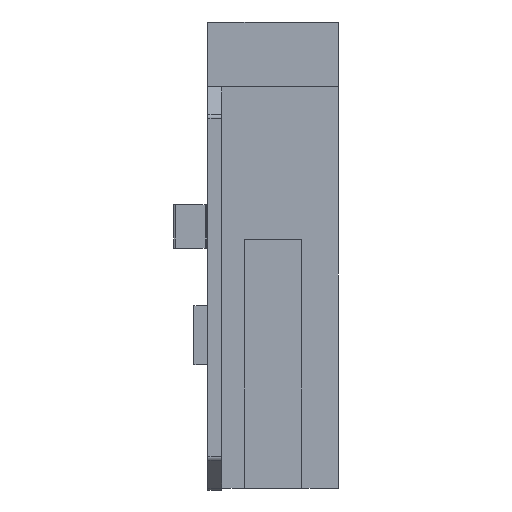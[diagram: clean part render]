
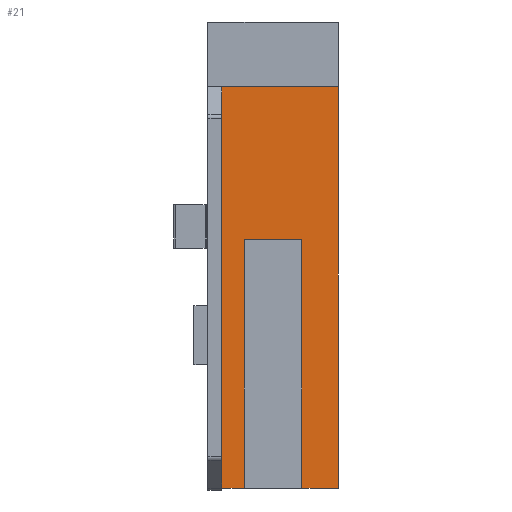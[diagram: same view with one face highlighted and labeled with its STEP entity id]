
A CAD part, front view. The second image highlights one B-rep face of the part: STEP entity #21.
In plain terms, the highlighted planar face has unit normal (0, -1, 0).
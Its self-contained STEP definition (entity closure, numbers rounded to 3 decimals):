
#21 = ADVANCED_FACE ( 'NONE', ( #1389 ), #2062, .T. ) ;
#36 = EDGE_CURVE ( 'NONE', #1453, #1895, #1731, .T. ) ;
#43 = DIRECTION ( 'NONE',  ( 0., 0., -1. ) ) ;
#53 = ORIENTED_EDGE ( 'NONE', *, *, #36, .T. ) ;
#58 = CARTESIAN_POINT ( 'NONE',  ( -5.55, -32.25, 43.3 ) ) ;
#90 = CARTESIAN_POINT ( 'NONE',  ( -5.55, -32.25, 0. ) ) ;
#106 = CARTESIAN_POINT ( 'NONE',  ( -5.55, -32.25, 0. ) ) ;
#133 = CARTESIAN_POINT ( 'NONE',  ( 3.1, -32.25, 0. ) ) ;
#210 = VECTOR ( 'NONE', #1680, 1000. ) ;
#245 = CARTESIAN_POINT ( 'NONE',  ( 7.05, -32.25, 0. ) ) ;
#292 = ORIENTED_EDGE ( 'NONE', *, *, #1812, .F. ) ;
#302 = LINE ( 'NONE', #2355, #739 ) ;
#320 = ORIENTED_EDGE ( 'NONE', *, *, #1254, .T. ) ;
#332 = VECTOR ( 'NONE', #1355, 1000. ) ;
#400 = VECTOR ( 'NONE', #682, 1000. ) ;
#401 = ORIENTED_EDGE ( 'NONE', *, *, #1046, .T. ) ;
#404 = EDGE_LOOP ( 'NONE', ( #53, #2492, #839, #527, #320, #292, #2215, #401 ) ) ;
#527 = ORIENTED_EDGE ( 'NONE', *, *, #1981, .T. ) ;
#576 = VERTEX_POINT ( 'NONE', #2801 ) ;
#651 = VECTOR ( 'NONE', #1738, 1000. ) ;
#682 = DIRECTION ( 'NONE',  ( 1., 0., 0. ) ) ;
#739 = VECTOR ( 'NONE', #1017, 1000. ) ;
#806 = VERTEX_POINT ( 'NONE', #1747 ) ;
#839 = ORIENTED_EDGE ( 'NONE', *, *, #933, .T. ) ;
#933 = EDGE_CURVE ( 'NONE', #806, #576, #1305, .T. ) ;
#942 = CARTESIAN_POINT ( 'NONE',  ( -5.55, -32.25, 0. ) ) ;
#962 = VERTEX_POINT ( 'NONE', #1959 ) ;
#1006 = VECTOR ( 'NONE', #1193, 1000. ) ;
#1017 = DIRECTION ( 'NONE',  ( 0., 0., 1. ) ) ;
#1046 = EDGE_CURVE ( 'NONE', #1501, #1453, #1740, .T. ) ;
#1128 = VECTOR ( 'NONE', #2297, 1000. ) ;
#1193 = DIRECTION ( 'NONE',  ( 0., 0., -1. ) ) ;
#1238 = EDGE_CURVE ( 'NONE', #1501, #1973, #1565, .T. ) ;
#1244 = CARTESIAN_POINT ( 'NONE',  ( -5.55, -32.25, 0. ) ) ;
#1254 = EDGE_CURVE ( 'NONE', #2581, #962, #1600, .T. ) ;
#1305 = LINE ( 'NONE', #2753, #210 ) ;
#1355 = DIRECTION ( 'NONE',  ( 1., 0., 0. ) ) ;
#1389 = FACE_OUTER_BOUND ( 'NONE', #404, .T. ) ;
#1405 = CARTESIAN_POINT ( 'NONE',  ( 7.05, -32.25, 43.3 ) ) ;
#1429 = CARTESIAN_POINT ( 'NONE',  ( 3.1, -32.25, 0. ) ) ;
#1453 = VERTEX_POINT ( 'NONE', #106 ) ;
#1501 = VERTEX_POINT ( 'NONE', #2561 ) ;
#1565 = LINE ( 'NONE', #58, #332 ) ;
#1591 = CARTESIAN_POINT ( 'NONE',  ( -5.55, -32.25, 0. ) ) ;
#1600 = LINE ( 'NONE', #1591, #400 ) ;
#1611 = EDGE_CURVE ( 'NONE', #1895, #806, #302, .T. ) ;
#1680 = DIRECTION ( 'NONE',  ( 1., 0., 0. ) ) ;
#1731 = LINE ( 'NONE', #90, #1128 ) ;
#1738 = DIRECTION ( 'NONE',  ( 0., 0., -1. ) ) ;
#1740 = LINE ( 'NONE', #1244, #651 ) ;
#1747 = CARTESIAN_POINT ( 'NONE',  ( -3.1, -32.25, 26.8 ) ) ;
#1812 = EDGE_CURVE ( 'NONE', #1973, #962, #2271, .T. ) ;
#1895 = VERTEX_POINT ( 'NONE', #1999 ) ;
#1959 = CARTESIAN_POINT ( 'NONE',  ( 7.05, -32.25, 0. ) ) ;
#1973 = VERTEX_POINT ( 'NONE', #1405 ) ;
#1981 = EDGE_CURVE ( 'NONE', #576, #2581, #2656, .T. ) ;
#1999 = CARTESIAN_POINT ( 'NONE',  ( -3.1, -32.25, 0. ) ) ;
#2062 = PLANE ( 'NONE',  #2379 ) ;
#2215 = ORIENTED_EDGE ( 'NONE', *, *, #1238, .F. ) ;
#2271 = LINE ( 'NONE', #245, #2793 ) ;
#2297 = DIRECTION ( 'NONE',  ( 1., 0., 0. ) ) ;
#2355 = CARTESIAN_POINT ( 'NONE',  ( -3.1, -32.25, 26.8 ) ) ;
#2379 = AXIS2_PLACEMENT_3D ( 'NONE', #942, #2513, #2725 ) ;
#2492 = ORIENTED_EDGE ( 'NONE', *, *, #1611, .T. ) ;
#2513 = DIRECTION ( 'NONE',  ( 0., -1., 0. ) ) ;
#2561 = CARTESIAN_POINT ( 'NONE',  ( -5.55, -32.25, 43.3 ) ) ;
#2581 = VERTEX_POINT ( 'NONE', #133 ) ;
#2656 = LINE ( 'NONE', #1429, #1006 ) ;
#2725 = DIRECTION ( 'NONE',  ( 0., 0., -1. ) ) ;
#2753 = CARTESIAN_POINT ( 'NONE',  ( 3.1, -32.25, 26.8 ) ) ;
#2793 = VECTOR ( 'NONE', #43, 1000. ) ;
#2801 = CARTESIAN_POINT ( 'NONE',  ( 3.1, -32.25, 26.8 ) ) ;
